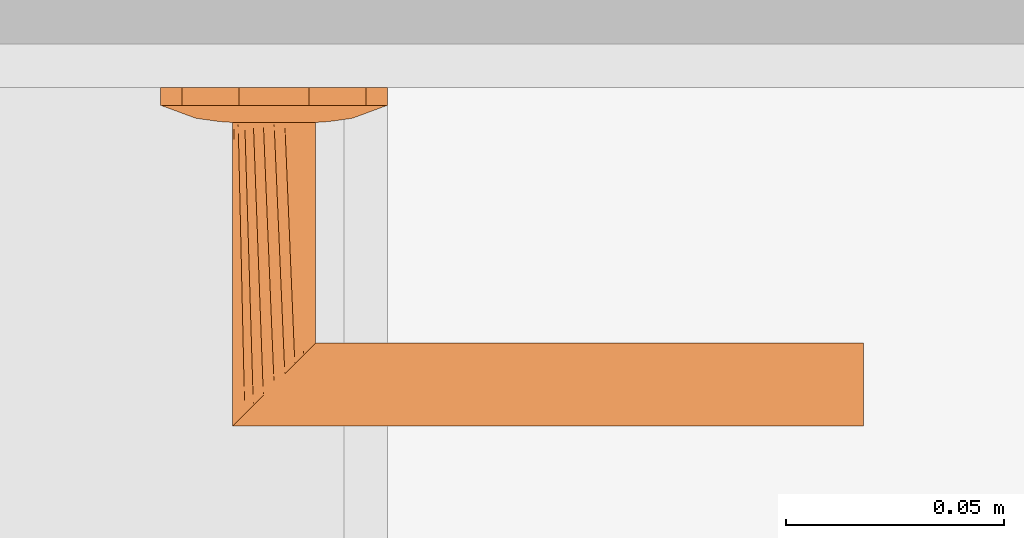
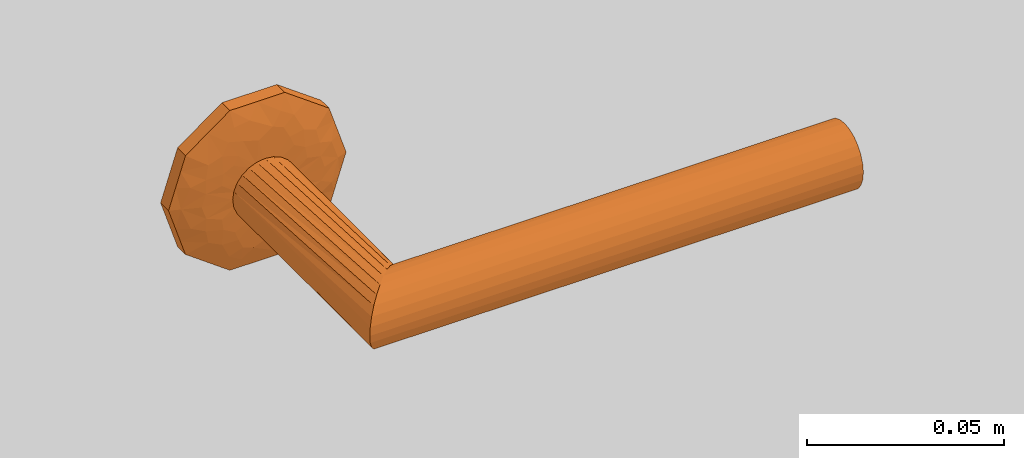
# One storey, part 109 of 125: 1 proxy.
"""IFC2X3 building model written with IfcOpenShell, lengths in millimetres."""

from ifc_helpers import new_model, entity, si_unit, converted_unit, direction, frame, origin, place, context, subcontext, project, spatial, faceted_brep, source, transform, mapped, material, type_object, type_shapes, element, save


model = new_model("IFC2X3")

# Units and contexts
model_context = context("Model", 3, precision=0.01, world=origin(), true_north=direction((6.123233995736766e-17, 1.0)))
plan_context = context("Plan", 3, precision=0.01, world=origin(), true_north=direction((6.123233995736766e-17, 1.0)))
body_context = subcontext(model_context, "Body", "Model", "MODEL_VIEW")
ifc_project = project(units=[si_unit("LENGTHUNIT", "METRE", prefix="MILLI"), converted_unit("PLANEANGLEUNIT", "DEGREE", entity("IfcPlaneAngleMeasure", 0.017453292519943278), si_unit("PLANEANGLEUNIT", "RADIAN"), dimensions=[0, 0, 0, 0, 0, 0, 0]), si_unit("AREAUNIT", "SQUARE_METRE")], contexts=[model_context, plan_context])

# Site, building, storey, space
site_placement = place(None, origin())
site = spatial("IfcSite", under=ifc_project, at=site_placement, Name="Default", CompositionType="ELEMENT")
building_placement = place(site_placement, origin())
building = spatial("IfcBuilding", under=site, at=building_placement, CompositionType="ELEMENT")
storey_placement = place(building_placement, frame((0.0, 0.0, 3125.0)))
storey = spatial("IfcBuildingStorey", under=building, at=storey_placement, Name="2K", CompositionType="ELEMENT", Elevation=3125.0)
space_placement = place(storey_placement, origin())
space = spatial("IfcSpace", under=storey, at=space_placement, Name="2-0.3", CompositionType="ELEMENT", InteriorOrExteriorSpace="INTERNAL")

# Proxy
ifc_material = material(Name="<Unnamed>")
building_element_proxy_type = type_object("IfcBuildingElementProxyType", Name="Door-handle_Lever_ABLOY_INOXI_3-19ss-002_RT:Default", PredefinedType="NOTDEFINED", material=ifc_material)
shared_shape = source(origin(), body_context, "Body", "Brep", [
    faceted_brep([(0.0, 0.0, 0.0), (8.034441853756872, 24.72746942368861, 0.0), (14.534441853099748, 20.00494299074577, 0.0), (21.034441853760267, 15.282416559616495, 0.0), (23.51722092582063, 7.641208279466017, 0.0), (26.0, 0.0, 0.0), (23.517220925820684, -7.641208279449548, 0.0), (0.0, 24.72746942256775, 0.0), (-8.034441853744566, 24.727469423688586, 0.0), (-14.534441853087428, 20.00494299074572, 0.0), (-21.03444185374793, 15.282416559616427, 0.0), (-23.517220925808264, 7.641208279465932, 0.0), (-26.0, 0.0, 0.0), (21.034441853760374, -15.282416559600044, 0.0), (14.534441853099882, -20.004942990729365, 0.0), (8.034441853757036, -24.72746942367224, 0.0), (0.0, -24.72746942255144, 0.0), (-23.517220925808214, -7.641208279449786, 0.0), (-21.034441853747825, -15.282416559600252, 0.0), (-14.53444185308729, -20.004942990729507, 0.0), (-8.0344418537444, -24.72746942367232, 0.0), (0.0, 0.0, 8.0), (9.500000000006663, 0.0, 8.0), (8.312500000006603, 2.056810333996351, 8.0), (7.125000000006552, 4.113620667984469, 8.0), (5.937500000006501, 6.170431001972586, 8.0), (4.7500000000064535, 8.227241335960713, 8.0), (2.375000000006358, 8.2272413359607, 8.0), (0.0, 8.227241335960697, 8.0), (-2.3749999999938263, 8.227241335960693, 8.0), (-4.749999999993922, 8.227241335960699, 8.0), (-5.937499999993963, 6.1704310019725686, 8.0), (-7.124999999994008, 4.1136206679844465, 8.0), (-8.312499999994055, 2.0568103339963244, 8.0), (-9.499999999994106, 0.0, 8.0), (-8.31249999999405, -2.0568103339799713, 8.0), (8.312500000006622, -2.0568103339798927, 8.0), (7.125000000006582, -4.113620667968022, 8.0), (5.937500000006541, -6.170431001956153, 8.0), (4.750000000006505, -8.227241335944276, 8.0), (-7.124999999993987, -4.113620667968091, 8.0), (-5.9374999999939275, -6.17043100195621, 8.0), (-4.74999999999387, -8.227241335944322, 8.0), (-2.374999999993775, -8.227241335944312, 8.0), (0.0, -8.227241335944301, 8.0), (2.3750000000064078, -8.227241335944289, 8.0), (-20.6430713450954, 6.292822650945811, 5.929480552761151), (-16.663919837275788, 7.932665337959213, 6.877259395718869), (-22.48876527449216, 10.806469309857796, 4.030771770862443), (-16.764060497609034, 3.8202578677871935, 7.1747985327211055), (-12.504579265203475, 5.179566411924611, 7.774932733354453), (-11.979136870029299, 13.678312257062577, 6.945778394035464), (-11.963426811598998, 8.62529041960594, 7.618343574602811), (-9.07172672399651, 10.31160661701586, 7.7520782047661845), (8.03444185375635, 24.727469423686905, 4.030771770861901), (0.0, 24.72746942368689, 4.030771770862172), (5.758554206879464, 20.96753300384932, 5.871476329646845), (20.643071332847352, 6.292822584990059, 5.929480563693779), (22.488765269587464, 10.806469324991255, 4.03077177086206), (16.66391982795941, 7.9326653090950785, 6.877259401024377), (9.49943163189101, 18.6436835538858, 6.154325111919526), (14.534441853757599, 20.004942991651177, 4.030771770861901), (-14.534441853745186, 20.00494299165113, 4.030771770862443), (-21.034441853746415, 15.282416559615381, 4.030771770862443), (-15.783149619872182, 11.991003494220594, 6.50080018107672), (-23.943088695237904, 6.330522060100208, 4.030771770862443), (-23.012042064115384, 0.0, 5.135401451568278), (12.50457924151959, 5.179566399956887, 7.774932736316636), (11.963426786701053, 8.625290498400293, 7.618343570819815), (16.76406041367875, 3.820257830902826, 7.17479855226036), (15.783149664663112, 11.991003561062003, 6.50080015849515), (23.01204200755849, 0.0, 5.135401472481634), (17.9853516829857, 0.0, 6.993737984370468), (8.661516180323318, 10.478936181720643, 7.768126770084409), (-3.3573143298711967, 21.197247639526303, 5.971427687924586), (-8.03444185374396, 24.727469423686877, 4.030771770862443), (-7.711266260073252, 12.76034452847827, 7.594456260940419), (-5.97325794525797, 16.43013906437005, 7.110979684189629), (-9.94191586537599, 17.061976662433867, 6.522757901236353), (11.979136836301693, 13.678312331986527, 6.945778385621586), (5.953298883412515, 16.50608604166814, 7.096344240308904), (7.511307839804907, 13.358932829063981, 7.529187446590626), (-1.5654593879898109, 15.307443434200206, 7.519134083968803), (-7.784980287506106, 20.476295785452, 5.812837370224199), (2.8135289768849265, 17.763922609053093, 6.993737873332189), (-17.985351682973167, 0.0, 6.993737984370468), (-26.0, 0.0, 4.030771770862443), (-23.51722092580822, 7.641208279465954, 4.030771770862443), (26.0, 0.0, 4.030771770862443), (24.308823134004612, 5.204907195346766, 4.030771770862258), (23.943088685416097, 6.330522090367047, 4.030771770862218), (21.03444185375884, 15.282416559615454, 4.030771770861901), (22.617646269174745, 10.40981439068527, 4.030771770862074), (20.6430713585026, -6.292822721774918, 5.929480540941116), (16.663919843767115, -7.932665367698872, 6.877259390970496), (22.48876527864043, -10.8064692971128, 4.030771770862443), (16.764060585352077, -3.8202579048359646, 7.174798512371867), (12.504579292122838, -5.17956641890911, 7.774932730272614), (11.979136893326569, -13.678312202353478, 6.9457784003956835), (11.963426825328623, -8.62529034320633, 7.618343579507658), (9.071726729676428, -10.311606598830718, 7.752078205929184), (-8.03444185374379, -24.727469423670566, 4.030771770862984), (0.0, -24.727469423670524, 4.030771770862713), (-5.758554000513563, -20.96753314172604, 5.8714763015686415), (-20.643071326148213, -6.292822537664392, 5.929480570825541), (-22.488765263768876, -10.80646934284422, 4.030771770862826), (-16.66391981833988, -7.932665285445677, 6.877259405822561), (-9.499431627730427, -18.643683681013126, 6.154325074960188), (-14.534441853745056, -20.004942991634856, 4.030771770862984), (14.53444185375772, -20.00494299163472, 4.030771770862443), (21.034441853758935, -15.282416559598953, 4.030771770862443), (15.783149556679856, -11.991003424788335, 6.5008002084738), (23.943088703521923, -6.330522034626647, 4.030771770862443), (-12.504579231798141, -5.17956638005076, 7.77493273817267), (-11.963426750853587, -8.625290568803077, 7.618343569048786), (-16.764060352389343, -3.8202577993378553, 7.174798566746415), (-15.783149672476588, -11.991003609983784, 6.500800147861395), (-8.661516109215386, -10.478936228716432, 7.768126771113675), (3.3573144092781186, -21.197247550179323, 5.971427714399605), (8.034441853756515, -24.727469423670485, 4.030771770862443), (7.711266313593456, -12.760344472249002, 7.5944562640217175), (5.9732581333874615, -16.430139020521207, 7.110979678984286), (9.941915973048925, -17.06197655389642, 6.522757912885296), (-11.979136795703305, -13.678312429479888, 6.945778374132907), (-5.953298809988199, -16.506086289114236, 7.096344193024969), (-7.511307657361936, -13.358932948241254, 7.5291874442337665), (1.5654596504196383, -15.3074431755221, 7.519134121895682), (7.784980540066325, -20.476295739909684, 5.812837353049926), (-2.81352881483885, -17.76392263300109, 6.993737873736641), (23.517220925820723, -7.64120827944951, 4.030771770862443), (-24.308823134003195, -5.20490719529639, 4.030771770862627), (-23.943088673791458, -6.330522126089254, 4.030771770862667), (-21.034441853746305, -15.282416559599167, 4.030771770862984), (-22.617646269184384, -10.409814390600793, 4.0307717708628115)], [[[0, 1, 2]], [[0, 2, 3]], [[0, 3, 4]], [[0, 4, 5]], [[0, 5, 6]], [[0, 7, 1]], [[0, 8, 7]], [[0, 9, 8]], [[0, 10, 9]], [[0, 11, 10]], [[0, 12, 11]], [[0, 6, 13]], [[0, 13, 14]], [[0, 14, 15]], [[0, 15, 16]], [[0, 17, 12]], [[0, 18, 17]], [[0, 19, 18]], [[0, 20, 19]], [[0, 16, 20]], [[21, 22, 23]], [[21, 23, 24]], [[21, 24, 25]], [[21, 25, 26]], [[21, 26, 27]], [[21, 27, 28]], [[21, 28, 29]], [[21, 29, 30]], [[21, 30, 31]], [[21, 31, 32]], [[21, 32, 33]], [[21, 33, 34]], [[21, 34, 35]], [[21, 36, 22]], [[21, 37, 36]], [[21, 38, 37]], [[21, 39, 38]], [[21, 35, 40]], [[21, 40, 41]], [[21, 41, 42]], [[21, 42, 43]], [[21, 43, 44]], [[21, 44, 45]], [[21, 45, 39]], [[46, 47, 48]], [[49, 50, 47]], [[33, 32, 50]], [[51, 52, 53]], [[32, 52, 50]], [[49, 47, 46]], [[54, 55, 56]], [[57, 58, 59]], [[60, 61, 54]], [[62, 63, 64]], [[46, 65, 66]], [[67, 59, 68]], [[23, 69, 67]], [[70, 68, 59]], [[23, 22, 69]], [[52, 51, 64]], [[71, 69, 72]], [[73, 25, 68]], [[74, 55, 75]], [[76, 77, 78]], [[70, 61, 79]], [[71, 57, 69]], [[60, 80, 81]], [[51, 76, 78]], [[77, 29, 82]], [[26, 81, 27]], [[74, 83, 77]], [[77, 82, 74]], [[74, 84, 55]], [[34, 49, 85]], [[23, 67, 24]], [[28, 84, 82]], [[74, 82, 84]], [[29, 76, 30]], [[29, 28, 82]], [[49, 34, 33]], [[47, 50, 52]], [[47, 52, 64]], [[50, 49, 33]], [[53, 76, 51]], [[52, 32, 31]], [[49, 66, 85]], [[86, 66, 65]], [[24, 67, 68]], [[83, 78, 77]], [[49, 46, 66]], [[48, 64, 63]], [[46, 48, 87, 65]], [[48, 47, 64]], [[59, 67, 69]], [[26, 73, 81]], [[79, 68, 70]], [[25, 24, 68]], [[71, 88, 89, 90]], [[22, 72, 69]], [[59, 69, 57]], [[79, 61, 60]], [[51, 62, 64]], [[70, 58, 91]], [[90, 57, 71]], [[58, 70, 59]], [[57, 90, 92]], [[79, 60, 81]], [[61, 70, 91]], [[56, 80, 60]], [[79, 81, 73]], [[80, 84, 27]], [[79, 73, 68]], [[27, 84, 28]], [[25, 73, 26]], [[77, 76, 29]], [[31, 30, 53]], [[78, 62, 51]], [[75, 62, 83]], [[78, 83, 62]], [[75, 83, 74]], [[76, 53, 30]], [[31, 53, 52]], [[81, 80, 27]], [[84, 80, 56]], [[84, 56, 55]], [[54, 56, 60]], [[93, 94, 95]], [[96, 97, 94]], [[36, 37, 97]], [[98, 99, 100]], [[37, 99, 97]], [[96, 94, 93]], [[101, 102, 103]], [[104, 105, 106]], [[107, 108, 101]], [[109, 110, 111]], [[93, 112, 71]], [[113, 106, 114]], [[35, 115, 113]], [[116, 114, 106]], [[35, 34, 115]], [[99, 98, 111]], [[66, 115, 85]], [[117, 41, 114]], [[118, 102, 119]], [[120, 121, 122]], [[116, 108, 123]], [[66, 104, 115]], [[107, 124, 125]], [[120, 45, 121]], [[121, 45, 126]], [[42, 125, 43]], [[118, 127, 121]], [[121, 126, 118]], [[118, 128, 102]], [[22, 96, 72]], [[35, 113, 40]], [[44, 128, 126]], [[118, 126, 128]], [[45, 120, 39]], [[45, 44, 126]], [[96, 22, 36]], [[94, 97, 99]], [[94, 99, 111]], [[97, 96, 36]], [[100, 120, 98]], [[99, 37, 38]], [[96, 71, 72]], [[88, 71, 112]], [[40, 113, 114]], [[127, 122, 121]], [[96, 93, 71]], [[95, 111, 110]], [[93, 95, 129, 112]], [[95, 94, 111]], [[106, 113, 115]], [[42, 117, 125]], [[123, 114, 116]], [[41, 40, 114]], [[66, 86, 130, 131]], [[34, 85, 115]], [[106, 115, 104]], [[123, 108, 107]], [[98, 109, 111]], [[116, 105, 132]], [[131, 104, 66]], [[105, 116, 106]], [[104, 131, 133]], [[123, 107, 125]], [[108, 116, 132]], [[103, 124, 107]], [[123, 125, 117]], [[124, 128, 43]], [[123, 117, 114]], [[43, 128, 44]], [[41, 117, 42]], [[38, 39, 100]], [[98, 120, 122]], [[122, 109, 98]], [[119, 109, 127]], [[122, 127, 109]], [[119, 127, 118]], [[120, 100, 39]], [[38, 100, 99]], [[125, 124, 43]], [[128, 124, 103]], [[128, 103, 102]], [[101, 103, 107]], [[9, 10, 63, 62, 75, 8]], [[11, 12, 86, 65, 87, 48, 63, 10]], [[4, 3, 92, 90, 89, 88, 5]], [[3, 91, 58]], [[55, 54, 1, 7, 8, 75]], [[3, 2, 1, 54, 61, 91]], [[13, 6, 5, 88, 112, 129, 95, 110]], [[119, 15, 14, 13, 110, 109]], [[17, 18, 133, 131, 130, 86, 12]], [[18, 132, 105]], [[102, 101, 20, 16, 15, 119]], [[18, 19, 20, 101, 108, 132]], [[57, 92, 58]], [[104, 133, 105]], [[3, 58, 92]], [[18, 105, 133]]]),
    faceted_brep([(0.0, 9.499999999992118, 8.0), (2.4587809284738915, 9.176295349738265, 8.0), (4.7499999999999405, 8.22724133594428, 8.0), (6.717514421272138, 6.7175144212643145, 8.0), (8.227241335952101, 4.749999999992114, 8.0), (9.17629534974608, 2.458780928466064, 8.0), (9.499999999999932, 0.0, 8.0), (9.17629534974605, -2.458780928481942, 8.0), (8.22724133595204, -4.75000000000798, 8.0), (6.717514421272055, -6.717514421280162, 8.0), (4.7499999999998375, -8.227241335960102, 8.0), (2.4587809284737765, -9.176295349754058, 8.0), (0.0, -9.500000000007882, 8.0), (-2.4587809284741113, -9.176295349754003, 8.0), (-4.750000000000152, -8.227241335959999, 8.0), (-6.717514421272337, -6.717514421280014, 8.0), (-8.227241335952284, -4.750000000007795, 8.0), (-9.176295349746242, -2.458780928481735, 8.0), (-9.500000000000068, 0.0, 8.0), (-9.176295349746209, 2.4587809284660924, 8.0), (-8.227241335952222, 4.74999999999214, 8.0), (-6.717514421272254, 6.717514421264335, 8.0), (-4.7500000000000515, 8.227241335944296, 8.0), (-2.4587809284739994, 9.176295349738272, 8.0), (-6.717514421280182, -6.7175144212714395, 61.282485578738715), (-8.227241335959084, -4.7499999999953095, 59.772758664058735), (-9.176295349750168, -2.458780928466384, 58.82370465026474), (-2.4587809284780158, -9.176295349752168, 65.54121907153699), (-4.750000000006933, -8.227241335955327, 63.25000000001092), (-9.500000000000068, 0.0, 58.50000000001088), (0.0, -9.50000000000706, 68.0), (2.4587809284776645, -9.17629534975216, 70.45878092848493), (4.750000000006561, -8.227241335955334, 72.75000000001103), (6.717514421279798, -6.7175144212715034, 74.71751442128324), (9.17629534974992, -2.458780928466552, 77.17629534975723), (8.22724133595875, -4.749999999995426, 76.22724133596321), (9.499999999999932, 0.0, 77.50000000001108), (9.176295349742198, 2.4587809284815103, 77.1762953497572), (8.227241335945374, 4.750000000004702, 76.22724133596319), (4.749999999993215, 8.227241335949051, 72.75000000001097), (6.7175144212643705, 6.717514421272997, 74.7175144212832), (2.4587809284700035, 9.17629534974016, 70.45878092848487), (-2.4587809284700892, 9.176295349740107, 65.54121907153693), (0.0, 9.49999999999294, 68.0), (-6.717514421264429, 6.717514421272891, 61.282485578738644), (-4.749999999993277, 8.227241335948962, 63.250000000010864), (-9.176295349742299, 2.458780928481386, 58.8237046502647), (-8.227241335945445, 4.750000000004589, 59.77275866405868), (-135.0, 9.500000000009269, 68.0), (-135.0, 9.176295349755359, 65.54121907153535), (-135.0, 8.227241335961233, 63.25000000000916), (-135.0, 6.7175144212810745, 61.28248557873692), (-135.0, 4.750000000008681, 59.772758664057), (-135.0, 2.458780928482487, 58.82370465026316), (-135.0, 0.0, 58.50000000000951), (-135.0, -2.458780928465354, 58.823704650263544), (-135.0, -4.749999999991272, 59.772758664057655), (-135.0, -6.717514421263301, 61.28248557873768), (-135.0, -8.227241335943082, 63.250000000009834), (-135.0, -9.17629534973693, 65.54121907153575), (-135.0, -9.499999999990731, 68.0), (-135.0, -9.17629534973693, 70.45878092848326), (-135.0, -8.227241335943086, 72.75000000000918), (-135.0, -6.717514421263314, 74.71751442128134), (-135.0, -4.749999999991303, 76.22724133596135), (-135.0, -2.4587809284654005, 77.17629534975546), (-135.0, 0.0, 77.5000000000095), (-135.0, 2.4587809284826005, 77.17629534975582), (-135.0, 4.750000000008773, 76.22724133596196), (-135.0, 6.717514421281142, 74.71751442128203), (-135.0, 8.227241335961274, 72.75000000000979), (-135.0, 9.176295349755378, 70.4587809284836)], [[[0, 1, 2, 3, 4, 5, 6, 7, 8, 9, 10, 11, 12, 13, 14, 15, 16, 17, 18, 19, 20, 21, 22, 23]], [[15, 24, 25, 16]], [[16, 25, 26, 17]], [[27, 28, 12]], [[12, 28, 13]], [[13, 28, 24]], [[18, 17, 26, 29]], [[24, 15, 14]], [[14, 13, 24]], [[11, 30, 27]], [[31, 9, 32]], [[32, 8, 33]], [[34, 35, 7]], [[7, 35, 33]], [[36, 34, 7, 6]], [[30, 11, 10]], [[11, 27, 12]], [[33, 8, 7]], [[8, 32, 9]], [[31, 10, 9]], [[10, 31, 30]], [[37, 36, 6, 5]], [[37, 5, 38]], [[39, 40, 4]], [[5, 40, 38]], [[41, 39, 3]], [[5, 4, 40]], [[42, 43, 1]], [[2, 1, 43]], [[2, 41, 3]], [[39, 4, 3]], [[2, 43, 41]], [[23, 44, 45]], [[0, 45, 42]], [[19, 18, 29, 46]], [[20, 19, 46, 47]], [[21, 20, 47, 44]], [[23, 22, 44]], [[45, 0, 23]], [[44, 22, 21]], [[1, 0, 42]], [[48, 49, 50, 51, 52, 53, 54, 55, 56, 57, 58, 59, 60, 61, 62, 63, 64, 65, 66, 67, 68, 69, 70, 71]], [[26, 25, 56, 55]], [[29, 26, 55, 54]], [[28, 27, 59, 58]], [[24, 28, 58, 57]], [[25, 24, 57, 56]], [[27, 30, 60, 59]], [[32, 33, 63, 62]], [[31, 32, 62, 61]], [[34, 36, 66, 65]], [[35, 34, 65, 64]], [[33, 35, 64, 63]], [[61, 60, 30, 31]], [[38, 68, 67, 37]], [[37, 67, 66, 36]], [[41, 71, 70, 39]], [[39, 70, 69, 40]], [[40, 69, 68, 38]], [[48, 71, 41, 43]], [[44, 51, 50, 45]], [[45, 50, 49, 42]], [[29, 54, 53, 46]], [[46, 53, 52, 47]], [[47, 52, 51, 44]], [[42, 49, 48, 43]]]),
])
type_shapes(building_element_proxy_type, [shared_shape])
proxy_placement = place(space_placement, frame((5524.0, 7830.0, 1000.0), z_axis=(0.0, -1.0, 0.0), x_axis=(-1.0, 0.0, 0.0)))
element("IfcBuildingElementProxy", 1, at=proxy_placement, inside=space, type_object=building_element_proxy_type, material=ifc_material, Name="Door-handle_Lever_ABLOY_INOXI_3-19ss-002_RT:Default", ObjectType="Door-handle_Lever_ABLOY_INOXI_3-19ss-002_RT:Default", context=body_context, shape_type="MappedRepresentation", body=[
    mapped(shared_shape, transform((0.0, 0.0, 0.0), scale=1.0)),
])

save(model, "model.ifc")
